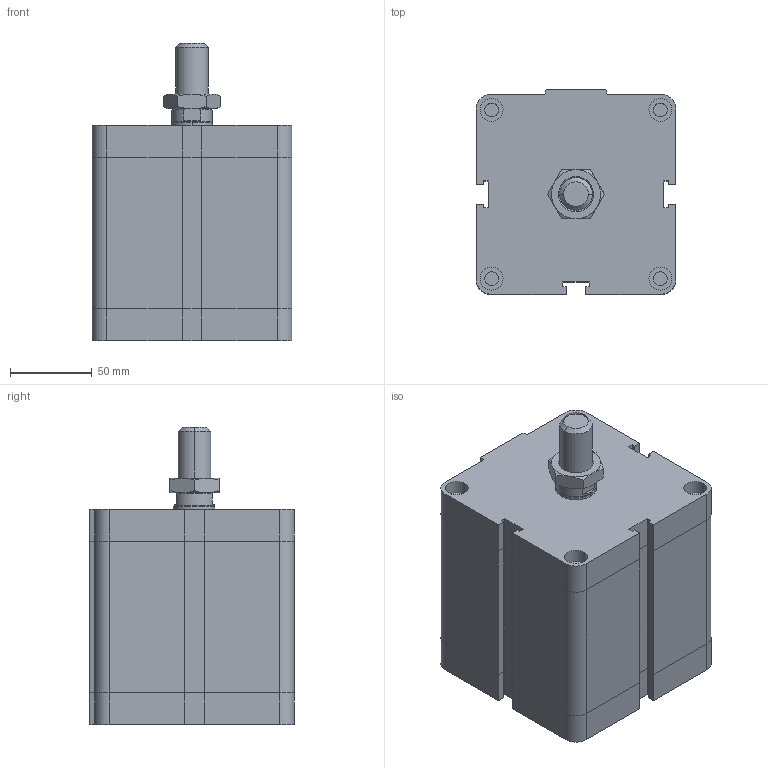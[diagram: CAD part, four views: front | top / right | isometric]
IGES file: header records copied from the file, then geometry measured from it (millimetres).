
Global section: file name: No Iges File Name specified; native system: Autodesk Inventor 2009; preprocessor: AutoDesk Inventor Iges Exporter R2009; author: rivolro1; date: 20081219.162930; units: millimetre
Bounding box: 122 x 125 x 181.5 mm (x, y, z)
Volume: 1924436.9 mm3; surface area: 128006.1 mm2
Topology: 3 solids, 3 shells, 216 faces, 472 edges, 282 vertices
Faces by surface type: plane 121, bspline 37, cylinder 20, cone 20, revolution 18
